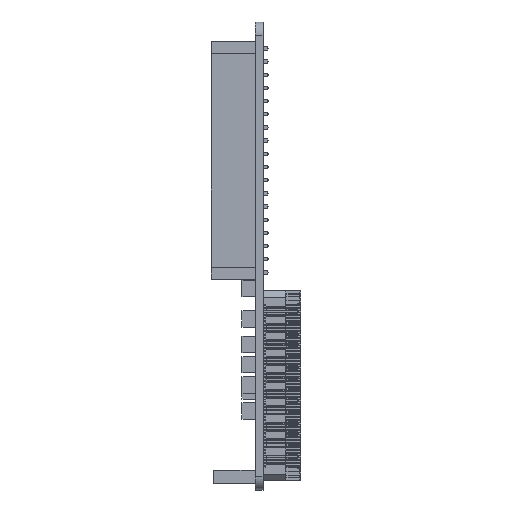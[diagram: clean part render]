
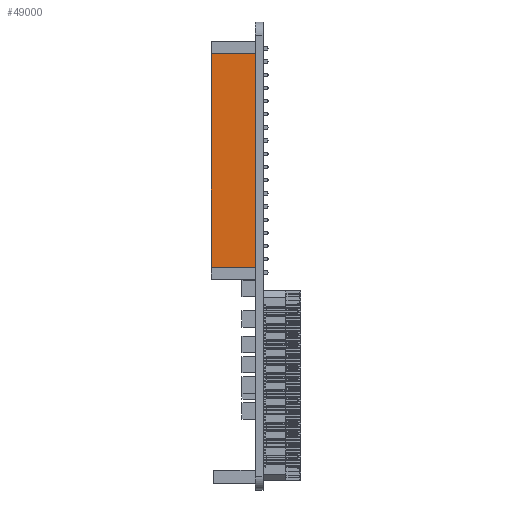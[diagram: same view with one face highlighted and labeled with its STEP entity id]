
A CAD part, left-side view. The second image highlights one B-rep face of the part: STEP entity #49000.
In plain terms, the highlighted planar face has unit normal (-1, 0, 0).
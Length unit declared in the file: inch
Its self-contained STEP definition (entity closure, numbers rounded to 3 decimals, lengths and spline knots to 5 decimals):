
#5666 = FACE_OUTER_BOUND ( 'NONE', #115538, .T. ) ;
#27800 = LINE ( 'NONE', #262495, #141555 ) ;
#34533 = CARTESIAN_POINT ( 'NONE',  ( -1.0875, 0.335, -0.085 ) ) ;
#35653 = CARTESIAN_POINT ( 'NONE',  ( -1.0875, 0.335, 1.535 ) ) ;
#36765 = DIRECTION ( 'NONE',  ( 0., 0., -1. ) ) ;
#43100 = VECTOR ( 'NONE', #171582, 39.37008 ) ;
#46246 = ORIENTED_EDGE ( 'NONE', *, *, #230540, .F. ) ;
#49000 = ADVANCED_FACE ( 'NONE', ( #5666 ), #104276, .F. ) ;
#63567 = DIRECTION ( 'NONE',  ( 0., 0., 1. ) ) ;
#75289 = ORIENTED_EDGE ( 'NONE', *, *, #162240, .F. ) ;
#83853 = VERTEX_POINT ( 'NONE', #177217 ) ;
#103519 = LINE ( 'NONE', #35653, #43100 ) ;
#104276 = PLANE ( 'NONE',  #189658 ) ;
#115538 = EDGE_LOOP ( 'NONE', ( #124288, #75289, #46246, #126841 ) ) ;
#123173 = VERTEX_POINT ( 'NONE', #250228 ) ;
#124288 = ORIENTED_EDGE ( 'NONE', *, *, #286467, .T. ) ;
#126841 = ORIENTED_EDGE ( 'NONE', *, *, #176265, .T. ) ;
#134941 = VECTOR ( 'NONE', #216122, 39.37008 ) ;
#141555 = VECTOR ( 'NONE', #285268, 39.37008 ) ;
#142110 = LINE ( 'NONE', #34533, #134941 ) ;
#152884 = CARTESIAN_POINT ( 'NONE',  ( -1.0875, 0., 1.535 ) ) ;
#156705 = VECTOR ( 'NONE', #63567, 39.37008 ) ;
#162240 = EDGE_CURVE ( 'NONE', #286074, #248607, #103519, .T. ) ;
#171582 = DIRECTION ( 'NONE',  ( 0., -1., 0. ) ) ;
#172721 = DIRECTION ( 'NONE',  ( 1., 0., 0. ) ) ;
#176265 = EDGE_CURVE ( 'NONE', #123173, #83853, #27800, .T. ) ;
#177217 = CARTESIAN_POINT ( 'NONE',  ( -1.0875, 0., -0.085 ) ) ;
#189658 = AXIS2_PLACEMENT_3D ( 'NONE', #240067, #172721, #36765 ) ;
#202786 = LINE ( 'NONE', #222189, #156705 ) ;
#216122 = DIRECTION ( 'NONE',  ( 0., 0., 1. ) ) ;
#222189 = CARTESIAN_POINT ( 'NONE',  ( -1.0875, 0., -0.085 ) ) ;
#224358 = CARTESIAN_POINT ( 'NONE',  ( -1.0875, 0.335, 1.535 ) ) ;
#230540 = EDGE_CURVE ( 'NONE', #123173, #286074, #142110, .T. ) ;
#240067 = CARTESIAN_POINT ( 'NONE',  ( -1.0875, 0.335, -0.085 ) ) ;
#248607 = VERTEX_POINT ( 'NONE', #152884 ) ;
#250228 = CARTESIAN_POINT ( 'NONE',  ( -1.0875, 0.335, -0.085 ) ) ;
#262495 = CARTESIAN_POINT ( 'NONE',  ( -1.0875, 0.335, -0.085 ) ) ;
#285268 = DIRECTION ( 'NONE',  ( 0., -1., 0. ) ) ;
#286074 = VERTEX_POINT ( 'NONE', #224358 ) ;
#286467 = EDGE_CURVE ( 'NONE', #83853, #248607, #202786, .T. ) ;
